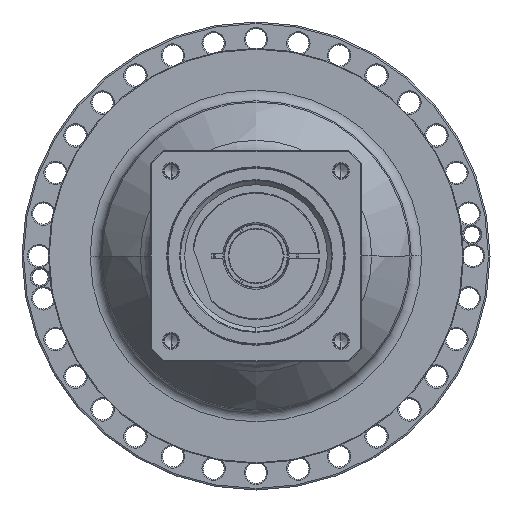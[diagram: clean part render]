
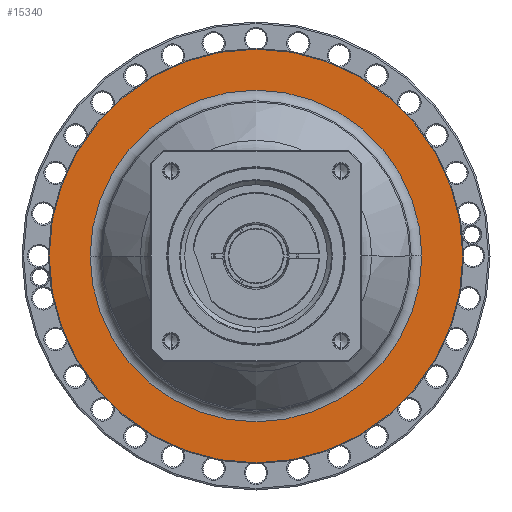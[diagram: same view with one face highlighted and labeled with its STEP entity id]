
A CAD part, left-side view. The second image highlights one B-rep face of the part: STEP entity #15340.
In plain terms, the highlighted planar face has unit normal (-1, 0, 0) as drawn and (1, 0, 0) by its records, which use the part's own axes.
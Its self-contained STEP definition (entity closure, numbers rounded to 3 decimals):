
#14843=CARTESIAN_POINT('',(-56.,0.,0.));
#14844=DIRECTION('',(-1.,0.,0.));
#14845=DIRECTION('',(0.,1.,0.));
#14846=AXIS2_PLACEMENT_3D('',#14843,#14844,#14845);
#14858=CARTESIAN_POINT('',(-56.,0.,0.));
#14859=DIRECTION('',(1.,0.,0.));
#14860=DIRECTION('',(0.,1.,0.));
#14861=AXIS2_PLACEMENT_3D('',#14858,#14859,#14860);
#14863=CARTESIAN_POINT('',(-56.,0.,0.));
#14864=DIRECTION('',(-1.,0.,0.));
#14865=DIRECTION('',(0.,-1.,0.));
#14866=AXIS2_PLACEMENT_3D('',#14863,#14864,#14865);
#14868=CARTESIAN_POINT('',(-56.,0.,0.));
#14869=DIRECTION('',(-1.,0.,0.));
#14870=DIRECTION('',(0.,1.,0.));
#14871=AXIS2_PLACEMENT_3D('',#14868,#14869,#14870);
#14993=CARTESIAN_POINT('',(-56.,-133.5,0.));
#14994=CARTESIAN_POINT('',(-56.,133.5,0.));
#14995=VERTEX_POINT('',#14993);
#14996=VERTEX_POINT('',#14994);
#15017=CARTESIAN_POINT('',(-56.,107.,0.));
#15018=CARTESIAN_POINT('',(-56.,-107.,0.));
#15019=VERTEX_POINT('',#15017);
#15020=VERTEX_POINT('',#15018);
#15325=CARTESIAN_POINT('',(-56.,0.,0.));
#15326=DIRECTION('',(1.,0.,0.));
#15327=DIRECTION('',(0.,-1.,0.));
#15328=AXIS2_PLACEMENT_3D('',#15325,#15326,#15327);
#15329=PLANE('',#15328);
#15331=ORIENTED_EDGE('',*,*,#15330,.T.);
#15333=ORIENTED_EDGE('',*,*,#15332,.T.);
#15334=EDGE_LOOP('',(#15331,#15333));
#15335=FACE_OUTER_BOUND('',#15334,.F.);
#15336=ORIENTED_EDGE('',*,*,#15319,.T.);
#15337=ORIENTED_EDGE('',*,*,#15305,.F.);
#15338=EDGE_LOOP('',(#15336,#15337));
#15339=FACE_BOUND('',#15338,.F.);
#15340=ADVANCED_FACE('',(#15335,#15339),#15329,.T.);
#14847=CIRCLE('',#14846,107.);
#14862=CIRCLE('',#14861,107.);
#14867=CIRCLE('',#14866,133.5);
#14872=CIRCLE('',#14871,133.5);
#15305=EDGE_CURVE('',#15019,#15020,#14847,.T.);
#15319=EDGE_CURVE('',#15019,#15020,#14862,.T.);
#15330=EDGE_CURVE('',#14995,#14996,#14867,.T.);
#15332=EDGE_CURVE('',#14996,#14995,#14872,.T.);
